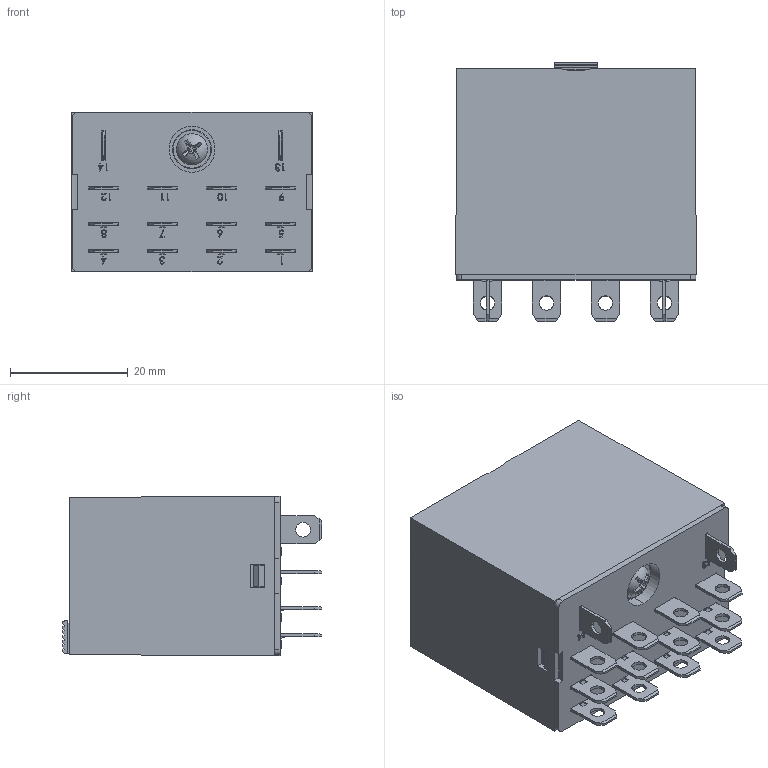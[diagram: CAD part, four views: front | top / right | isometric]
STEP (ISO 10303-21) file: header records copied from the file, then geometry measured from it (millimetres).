
FILE_DESCRIPTION (( 'STEP AP203' ), '1' );
FILE_NAME ('RKL4CO 俋倛.STEP', '2023-01-13T06:20:06', ( '' ), ( '' ), 'SwSTEP 2.0', 'SolidWorks 2018', '' );
FILE_SCHEMA (( 'CONFIG_CONTROL_DESIGN' ));
Length unit declared in the file: millimetre
Products named in the file (1): RKL4CO 俋倛
Bounding box: 40.8 x 44.1 x 27 mm (x, y, z)
Volume: 39048 mm3; surface area: 8815.8 mm2
Topology: 1 solids, 2 shells, 895 faces, 2430 edges, 1598 vertices
Faces by surface type: plane 672, cylinder 107, bspline 104, cone 9, torus 2, sphere 1
Entity records: 33446 total; most frequent: CARTESIAN_POINT 11195, ORIENTED_EDGE 4858, DIRECTION 4045, EDGE_CURVE 2429, LINE 1993, VECTOR 1993, VERTEX_POINT 1598, AXIS2_PLACEMENT_3D 1026
